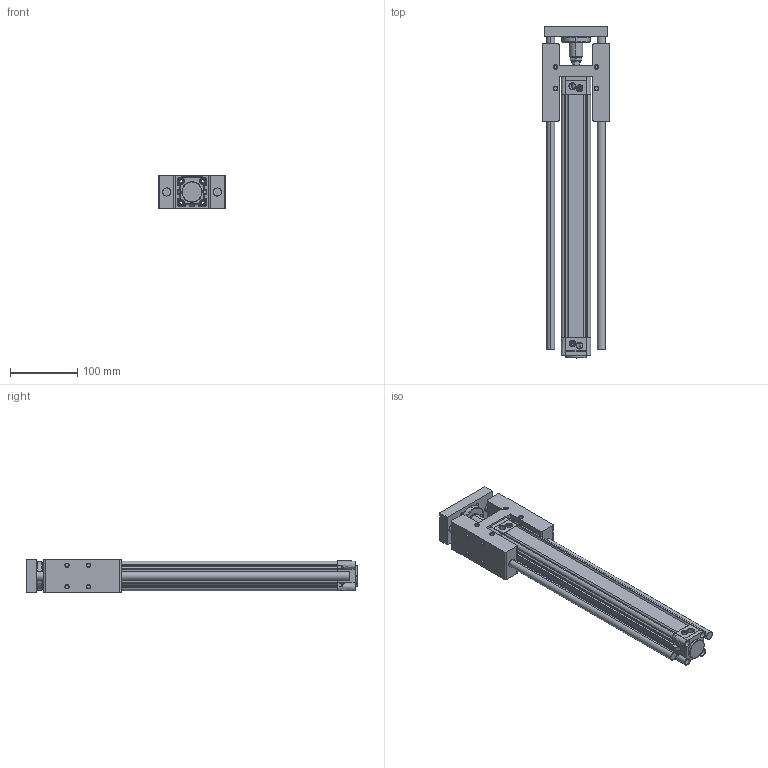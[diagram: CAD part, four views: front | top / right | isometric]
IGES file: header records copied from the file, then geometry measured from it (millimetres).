
Start section: SolidWorks IGES file using analytic representation for surfaces
Global section: file name: D:\ARICA 3D 禽Z軲LER\3D IGES\DNC-H\32\KDNC32X320H-YATAK.IGS,1; native system: 5HSolidWorks 2013; preprocessor: SolidWorks 2013; author: user; date: 160425.123406; units: millimetre
Bounding box: 101 x 493.4 x 50.5 mm (x, y, z)
Surface area: 324434.9 mm2 (no closed solid volume)
Topology: 0 solids, 0 shells, 956 faces, 14096 edges, 14066 vertices
Faces by surface type: revolution 533, bspline 423
